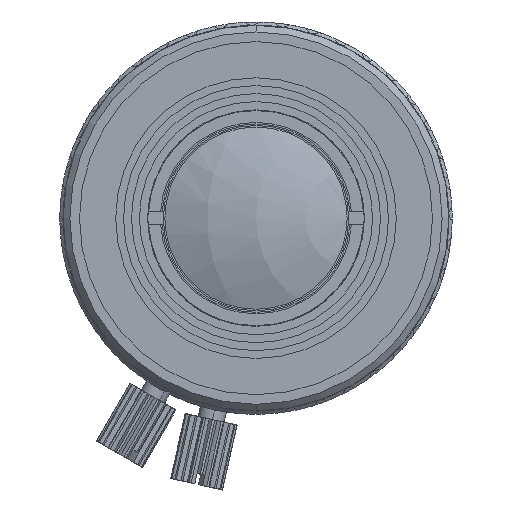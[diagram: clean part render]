
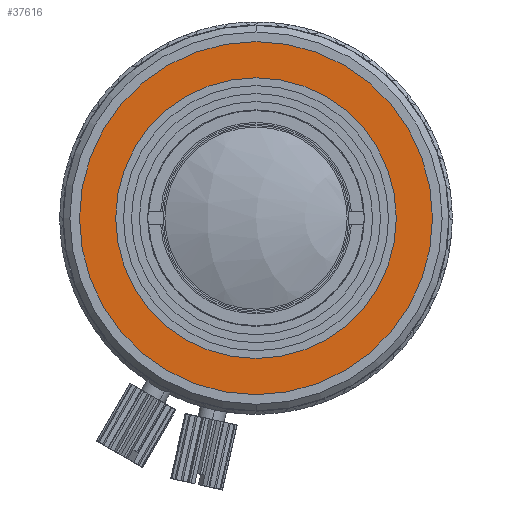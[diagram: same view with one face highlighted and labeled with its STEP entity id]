
A CAD part, left-side view. The second image highlights one B-rep face of the part: STEP entity #37616.
In plain terms, the highlighted planar face has unit normal (-1, 0, 0).
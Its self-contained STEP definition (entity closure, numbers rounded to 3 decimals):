
#11764=CARTESIAN_POINT('',(-32.3,0.,0.));
#11765=DIRECTION('',(-1.,0.,0.));
#11766=DIRECTION('',(0.,0.,1.));
#11767=AXIS2_PLACEMENT_3D('',#11764,#11765,#11766);
#11769=CARTESIAN_POINT('',(-32.3,0.,0.));
#11770=DIRECTION('',(-1.,0.,0.));
#11771=DIRECTION('',(0.,0.,-1.));
#11772=AXIS2_PLACEMENT_3D('',#11769,#11770,#11771);
#11774=CARTESIAN_POINT('',(-32.3,0.,0.));
#11775=DIRECTION('',(1.,0.,0.));
#11776=DIRECTION('',(0.,0.,-1.));
#11777=AXIS2_PLACEMENT_3D('',#11774,#11775,#11776);
#11779=CARTESIAN_POINT('',(-32.3,0.,0.));
#11780=DIRECTION('',(1.,0.,0.));
#11781=DIRECTION('',(0.,0.,1.));
#11782=AXIS2_PLACEMENT_3D('',#11779,#11780,#11781);
#17066=CARTESIAN_POINT('',(-32.3,0.,
-10.554));
#17067=VERTEX_POINT('',#17066);
#17068=CARTESIAN_POINT('',(-32.3,0.,10.554));
#17069=VERTEX_POINT('',#17068);
#17070=CARTESIAN_POINT('',(-32.3,0.,13.725));
#17071=CARTESIAN_POINT('',(-32.3,0.,-13.725));
#17072=VERTEX_POINT('',#17070);
#17073=VERTEX_POINT('',#17071);
#37601=CARTESIAN_POINT('',(-32.3,0.,0.));
#37602=DIRECTION('',(1.,0.,0.));
#37603=DIRECTION('',(0.,0.,1.));
#37604=AXIS2_PLACEMENT_3D('',#37601,#37602,#37603);
#37605=PLANE('',#37604);
#37606=ORIENTED_EDGE('',*,*,#37583,.F.);
#37607=ORIENTED_EDGE('',*,*,#37593,.F.);
#37608=EDGE_LOOP('',(#37606,#37607));
#37609=FACE_OUTER_BOUND('',#37608,.F.);
#37611=ORIENTED_EDGE('',*,*,#37610,.F.);
#37613=ORIENTED_EDGE('',*,*,#37612,.F.);
#37614=EDGE_LOOP('',(#37611,#37613));
#37615=FACE_BOUND('',#37614,.F.);
#37616=ADVANCED_FACE('',(#37609,#37615),#37605,.F.);
#11768=CIRCLE('',#11767,13.725);
#11773=CIRCLE('',#11772,13.725);
#11778=CIRCLE('',#11777,10.554);
#11783=CIRCLE('',#11782,10.554);
#37583=EDGE_CURVE('',#17072,#17073,#11768,.T.);
#37593=EDGE_CURVE('',#17073,#17072,#11773,.T.);
#37610=EDGE_CURVE('',#17067,#17069,#11778,.T.);
#37612=EDGE_CURVE('',#17069,#17067,#11783,.T.);
